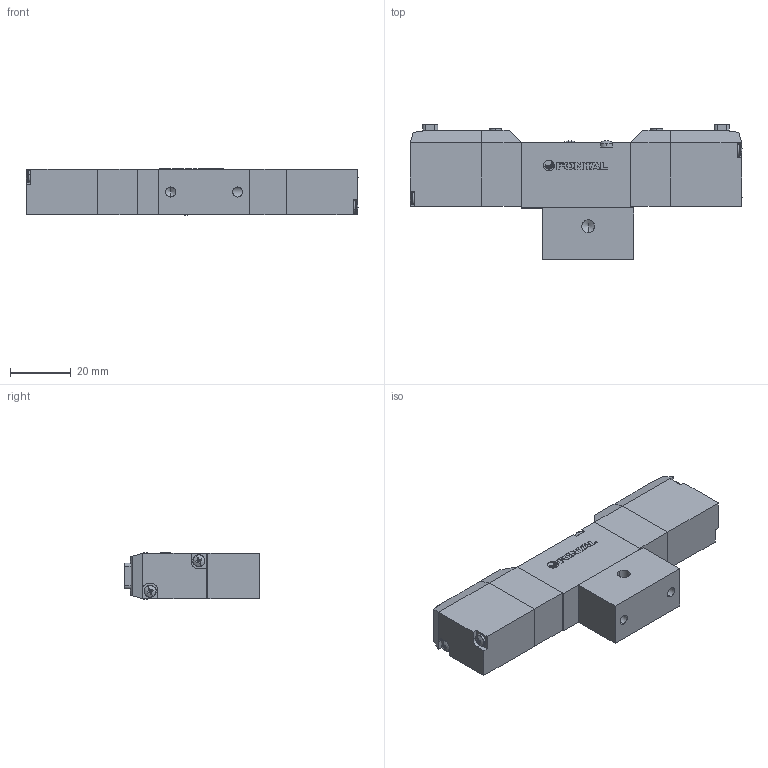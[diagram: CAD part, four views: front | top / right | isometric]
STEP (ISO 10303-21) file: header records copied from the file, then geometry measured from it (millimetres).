
FILE_DESCRIPTION (( 'STEP AP203' ), '1' );
FILE_NAME ('PCD345#-M5-#-L-#.STEP', '2016-02-04T03:45:20', ( 'Sam Lin' ), ( '' ), 'SwSTEP 2.0', 'SolidWorks 2013', '' );
FILE_SCHEMA (( 'CONFIG_CONTROL_DESIGN' ));
Length unit declared in the file: metre
Products named in the file (9): PC5-5; PC-MARK; PC5-6; PC5-4; ISO 7045 - M2 x 10; ISO 7045 - M2.5 x 25; PC5-9-345; PCD345#-M5-#-L-#; PC5-1
Assembly tree (15 placements, depth 2):
  PCD345#-M5-#-L-#
    PC5-1
    PC5-5  x2
    PC-MARK
    PC5-6  x2
    PC5-4  x2
    ISO 7045 - M2 x 10  x4
    ISO 7045 - M2.5 x 25  x2
    PC5-9-345
Bounding box: 109.14 x 44.5 x 15.4 mm (x, y, z)
Volume: 44254.1 mm3; surface area: 17669.2 mm2
Topology: 21 solids, 21 shells, 523 faces, 1281 edges, 793 vertices
Faces by surface type: plane 289, cylinder 111, cone 79, bspline 44
Entity records: 10182 total; most frequent: CARTESIAN_POINT 2159, ORIENTED_EDGE 1430, DIRECTION 1413, EDGE_CURVE 715, AXIS2_PLACEMENT_3D 494, VERTEX_POINT 460, LINE 425, VECTOR 425
